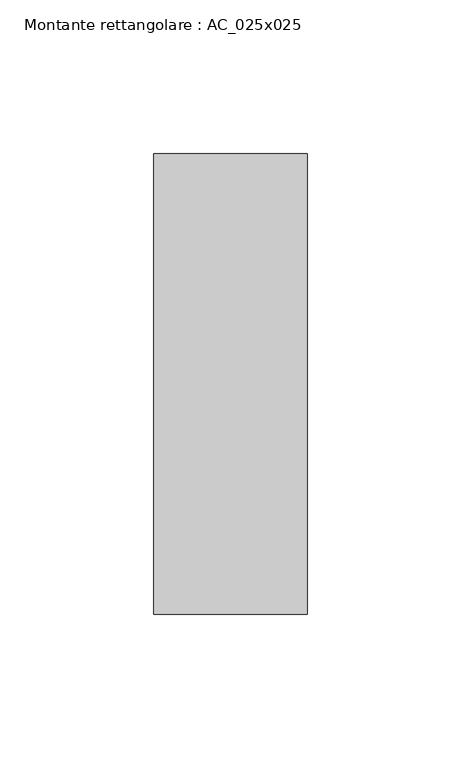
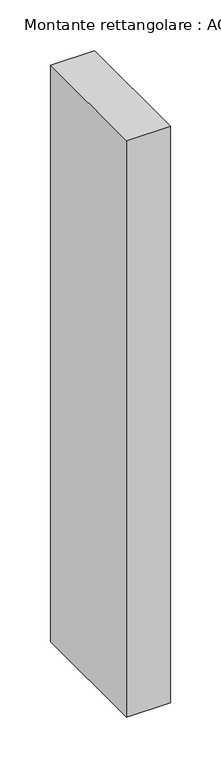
"""IFC4 building model written with IfcOpenShell, lengths in millimetres: member geometry, Montante rettangolare : AC_025x025."""

import ifcopenshell
import ifcopenshell.guid

model = None  # the IFC model being written
_history = None  # IfcOwnerHistory: only IFC2X3 demands one
_inside = {}  # id of a spatial element -> (the spatial element, [elements in it])
_under = {}  # id of a project, library or spatial element -> (it, [spatial elements below it])
_declared = {}  # id of a project -> (the project, [libraries it declares])
_typed = {}  # id of a type object -> (the type object, [elements of that type])
_made_of = {}  # id of a material, layer set ... -> (it, [elements and type objects made of it])


def new_model(schema):
    """Start an empty IFC model of exactly this schema.

    Asked for "IFC4X3", IfcOpenShell would pick the latest addendum, in which some entities
    have other attributes; the version numbers below select the first issue.
    IFC2X3 requires an IfcOwnerHistory on every rooted entity: one is made here for all.
    """
    global model, _history
    if schema == "IFC4X3":
        model = ifcopenshell.file(schema_version=(4, 3, 0, 0))
    else:
        model = ifcopenshell.file(schema=schema)
    _inside.clear()
    _under.clear()
    _declared.clear()
    _typed.clear()
    _made_of.clear()
    _history = None
    if model.schema == "IFC2X3":
        org = make("IfcOrganization", Name="unknown")
        user = make(
            "IfcPersonAndOrganization",
            ThePerson=make("IfcPerson", FamilyName="unknown"),
            TheOrganization=org,
        )
        app = make(
            "IfcApplication",
            ApplicationDeveloper=org,
            Version="unknown",
            ApplicationFullName="unknown",
            ApplicationIdentifier="unknown",
        )
        _history = make(
            "IfcOwnerHistory",
            OwningUser=user,
            OwningApplication=app,
            ChangeAction="ADDED",
            CreationDate=0,
        )
    return model


def make(cls, **values):
    """One entity of the class cls with the attributes given. An attribute that is None is left unset."""
    return model.create_entity(
        cls, **{name: value for name, value in values.items() if value is not None}
    )


def rooted(cls, **values):
    """An entity with a GlobalId (a new one), such as an element, a storey or a relation."""
    return make(cls, GlobalId=ifcopenshell.guid.new(), OwnerHistory=_history, **values)


def si_unit(unit_type, name, prefix=None):
    """IfcSIUnit, for example si_unit("LENGTHUNIT", "METRE", prefix="MILLI")."""
    return make("IfcSIUnit", UnitType=unit_type, Prefix=prefix, Name=name)


def assignment(units):
    """IfcUnitAssignment: the units of a project."""
    return None if units is None else make("IfcUnitAssignment", Units=units)


def point(xyz):
    """IfcCartesianPoint."""
    return None if xyz is None else make("IfcCartesianPoint", Coordinates=xyz)


def direction(xyz):
    """IfcDirection."""
    return None if xyz is None else make("IfcDirection", DirectionRatios=xyz)


def frame(location, z_axis=None, x_axis=None):
    """IfcAxis2Placement3D, a coordinate frame: its origin and axes. An axis left out is left unset."""
    return make(
        "IfcAxis2Placement3D",
        Location=point(location),
        Axis=direction(z_axis),
        RefDirection=direction(x_axis),
    )


def origin():
    """The frame at (0, 0, 0) with its axes left unset."""
    return frame((0.0, 0.0, 0.0))


def place(relative_to, where):
    """IfcLocalPlacement: puts the frame where relative to a parent placement (None: the world)."""
    return make(
        "IfcLocalPlacement", PlacementRelTo=relative_to, RelativePlacement=where
    )


def context(
    kind, dimensions, precision=None, world=None, true_north=None, identifier=None
):
    """IfcGeometricRepresentationContext, for example the 3D "Model" context."""
    return make(
        "IfcGeometricRepresentationContext",
        ContextIdentifier=identifier,
        ContextType=kind,
        CoordinateSpaceDimension=dimensions,
        Precision=precision,
        WorldCoordinateSystem=world,
        TrueNorth=true_north,
    )


def project(units=None, contexts=None):
    """IfcProject with its units and contexts."""
    return rooted(
        "IfcProject",
        Name="project",
        RepresentationContexts=contexts,
        UnitsInContext=assignment(units),
    )


def spatial(cls, under=None, at=None, **own):
    """A site, building, storey or space (cls), placed at a placement, below another one or the project."""
    s = rooted(cls, ObjectPlacement=at, **own)
    if under is not None:
        _under.setdefault(under.id(), (under, []))[1].append(s)
    return s


def polyline(points):
    """IfcPolyline through the points."""
    return make("IfcPolyline", Points=[point(p) for p in points])


def outline(outer, holes=None, kind="AREA"):
    """IfcArbitraryClosedProfileDef: a profile drawn as a closed curve; with holes, ...WithVoids."""
    if holes is None:
        return make("IfcArbitraryClosedProfileDef", ProfileType=kind, OuterCurve=outer)
    return make(
        "IfcArbitraryProfileDefWithVoids",
        ProfileType=kind,
        OuterCurve=outer,
        InnerCurves=holes,
    )


def extrude(swept, where, along, depth):
    """IfcExtrudedAreaSolid: the profile swept, set in the frame where, extruded along a direction by depth."""
    return make(
        "IfcExtrudedAreaSolid",
        SweptArea=swept,
        Position=where,
        ExtrudedDirection=direction(along),
        Depth=depth,
    )


def shape(context_of_items, identifier, shape_type, items):
    """IfcShapeRepresentation: the items that make up one representation, for example the "Body"."""
    return make(
        "IfcShapeRepresentation",
        ContextOfItems=context_of_items,
        RepresentationIdentifier=identifier,
        RepresentationType=shape_type,
        Items=items,
    )


def source(mapping_origin, context_of_items, identifier, shape_type, items):
    """IfcRepresentationMap: a shape defined once, which mapped items show again and again."""
    return make(
        "IfcRepresentationMap",
        MappingOrigin=mapping_origin,
        MappedRepresentation=shape(context_of_items, identifier, shape_type, items),
    )


def transform(
    local_origin,
    x_axis=None,
    y_axis=None,
    z_axis=None,
    scale=None,
    scale2=None,
    scale3=None,
    uniform=True,
):
    """IfcCartesianTransformationOperator3D, or its non-uniform kind. x_axis, y_axis, z_axis: its Axis1, 2, 3."""
    if uniform:
        return make(
            "IfcCartesianTransformationOperator3D",
            Axis1=direction(x_axis),
            Axis2=direction(y_axis),
            LocalOrigin=point(local_origin),
            Scale=scale,
            Axis3=direction(z_axis),
        )
    return make(
        "IfcCartesianTransformationOperator3DnonUniform",
        Axis1=direction(x_axis),
        Axis2=direction(y_axis),
        LocalOrigin=point(local_origin),
        Scale=scale,
        Axis3=direction(z_axis),
        Scale2=scale2,
        Scale3=scale3,
    )


def mapped(mapping_source, mapping_target):
    """IfcMappedItem: shows the shape of a source again, moved by a transform."""
    return make(
        "IfcMappedItem", MappingSource=mapping_source, MappingTarget=mapping_target
    )


def made_of(thing, what):
    """Note that an element or type object is made of a material, layer set ...; save() writes the relation."""
    if what is not None:
        _made_of.setdefault(what.id(), (what, []))[1].append(thing)
    return thing


def element(
    cls,
    number,
    at=None,
    inside=None,
    cuts=None,
    type_object=None,
    material=None,
    context=None,
    identifier="Body",
    shape_type=None,
    held_by="IfcProductDefinitionShape",
    body=None,
    shapes=None,
    **own,
):
    """One element of the class cls, such as IfcWall. Its Tag is "e" and its number.

    at: its placement. inside: the storey or other place that contains it. cuts: it is an
    opening in that element (IfcRelVoidsElement). A single representation is given by context,
    identifier, shape_type and body (its items); several are given by shapes. held_by: the class
    of the entity that holds the representations. save() writes the other relations.
    """
    e = rooted(cls, Tag="e%d" % number, ObjectPlacement=at, **own)
    if body is not None:
        shapes = [shape(context, identifier, shape_type, body)]
    if shapes is not None:
        e.Representation = make(held_by, Representations=shapes)
    if inside is not None:
        _inside.setdefault(inside.id(), (inside, []))[1].append(e)
    if cuts is not None:
        rooted(
            "IfcRelVoidsElement", RelatingBuildingElement=cuts, RelatedOpeningElement=e
        )
    if type_object is not None:
        _typed.setdefault(type_object.id(), (type_object, []))[1].append(e)
    return made_of(e, material)


def aggregate(whole, parts):
    """IfcRelAggregates: a whole, such as a stair, and the parts it consists of."""
    return rooted("IfcRelAggregates", RelatingObject=whole, RelatedObjects=parts)


def save(model, path):
    """Write the relations noted so far, then the file.

    IfcRelAggregates (storeys below a building ...), IfcRelContainedInSpatialStructure (elements
    in a storey), IfcRelDefinesByType, IfcRelAssociatesMaterial and IfcRelDeclares: one each for
    every whole, place, type object, material and project.
    """
    for whole, parts in _under.values():
        aggregate(whole, parts)
    for where, things in _inside.values():
        rooted(
            "IfcRelContainedInSpatialStructure",
            RelatedElements=things,
            RelatingStructure=where,
        )
    for kind, things in _typed.values():
        rooted("IfcRelDefinesByType", RelatedObjects=things, RelatingType=kind)
    for what, things in _made_of.values():
        rooted("IfcRelAssociatesMaterial", RelatedObjects=things, RelatingMaterial=what)
    for by, libraries in _declared.values():
        rooted("IfcRelDeclares", RelatingContext=by, RelatedDefinitions=libraries)
    model.write(path)


def montante_rettangolare_ac_025x025_a02916a3(model_context):
    return source(origin(), model_context, "Body", "SweptSolid", [
        extrude(outline(polyline([(0.0, 75.0), (0.0, -75.0), (-50.0, -75.0), (-50.0, 75.0), (0.0, 75.0)])), frame((0.0, 0.0, -693.9243326), z_axis=(0.0, 0.0, 1.0), x_axis=(1.0, 0.0, 0.0)), (0.0, 0.0, 1.0), 693.9243326),
    ])


if __name__ == "__main__":
    model = new_model("IFC4")
    model_context = context("Model", 3, world=origin())
    ifc_project = project(units=[si_unit("LENGTHUNIT", "METRE", prefix="MILLI")], contexts=[model_context])
    site = spatial("IfcSite", under=ifc_project)
    building = spatial("IfcBuilding", under=site)
    placement = place(None, origin())
    montante_rettangolare_ac_025x025_shape = montante_rettangolare_ac_025x025_a02916a3(model_context)
    element("IfcMember", 1, ObjectType="Montante rettangolare : AC_025x025", at=placement, inside=building, context=model_context, shape_type="MappedRepresentation", body=[
        mapped(montante_rettangolare_ac_025x025_shape, transform((0.0, 0.0, 0.0), x_axis=(1.0, 0.0, 0.0), y_axis=(0.0, 1.0, 0.0), z_axis=(0.0, 0.0, 1.0))),
    ])
    save(model, "model.ifc")
